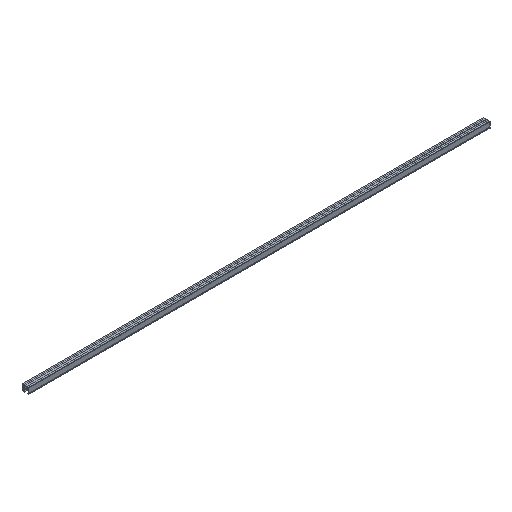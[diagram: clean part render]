
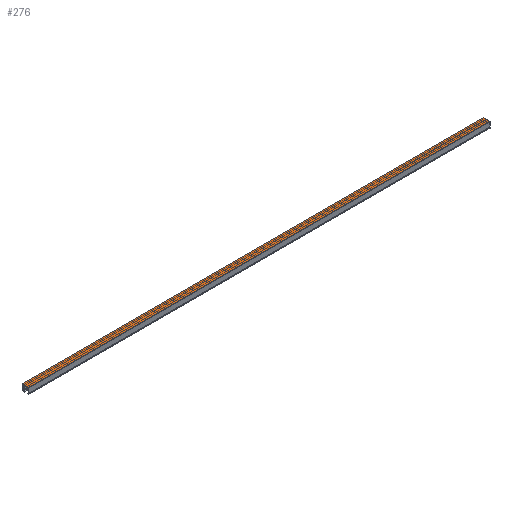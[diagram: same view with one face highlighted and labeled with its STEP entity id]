
A CAD part, isometric view. The second image highlights one B-rep face of the part: STEP entity #276.
In plain terms, the highlighted planar face has unit normal (0, 0, 1).
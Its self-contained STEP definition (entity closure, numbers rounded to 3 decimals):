
#276=ADVANCED_FACE('',(#561),#562,.T.);
#561=FACE_OUTER_BOUND('',#848,.T.);
#562=PLANE('',#849);
#848=EDGE_LOOP('',(#1621,#1622,#1623,#1624));
#849=AXIS2_PLACEMENT_3D('',#1625,#1626,#1627);
#1621=ORIENTED_EDGE('',*,*,#2025,.T.);
#1622=ORIENTED_EDGE('',*,*,#2078,.T.);
#1623=ORIENTED_EDGE('',*,*,#2080,.F.);
#1624=ORIENTED_EDGE('',*,*,#2081,.F.);
#1625=CARTESIAN_POINT('',(2500.0,-15.5,0.0));
#1626=DIRECTION('',(0.0,-0.0,1.0));
#1627=DIRECTION('',(0.0,1.0,0.0));
#2025=EDGE_CURVE('',#2511,#2509,#2512,.T.);
#2078=EDGE_CURVE('',#2509,#2584,#2586,.T.);
#2080=EDGE_CURVE('',#2588,#2584,#2589,.T.);
#2081=EDGE_CURVE('',#2511,#2588,#2590,.T.);
#2509=VERTEX_POINT('',#3183);
#2511=VERTEX_POINT('',#3186);
#2512=LINE('',#3187,#3188);
#2584=VERTEX_POINT('',#3295);
#2586=LINE('',#3298,#3299);
#2588=VERTEX_POINT('',#3301);
#2589=LINE('',#3302,#3303);
#2590=LINE('',#3304,#3305);
#3183=CARTESIAN_POINT('',(2500.0,20.0,0.0));
#3186=CARTESIAN_POINT('',(2500.0,-15.5,0.0));
#3187=CARTESIAN_POINT('',(2500.0,-15.5,0.0));
#3188=VECTOR('',#3641,1.0);
#3295=CARTESIAN_POINT('',(0.0,20.0,0.0));
#3298=CARTESIAN_POINT('',(2500.0,20.0,0.0));
#3299=VECTOR('',#3678,1.0);
#3301=CARTESIAN_POINT('',(0.0,-15.5,0.0));
#3302=CARTESIAN_POINT('',(0.0,-15.5,0.0));
#3303=VECTOR('',#3679,1.0);
#3304=CARTESIAN_POINT('',(2500.0,-15.5,0.0));
#3305=VECTOR('',#3680,1.0);
#3641=DIRECTION('',(0.0,1.0,0.0));
#3678=DIRECTION('',(-1.0,0.0,0.0));
#3679=DIRECTION('',(0.0,1.0,0.0));
#3680=DIRECTION('',(-1.0,0.0,0.0));
